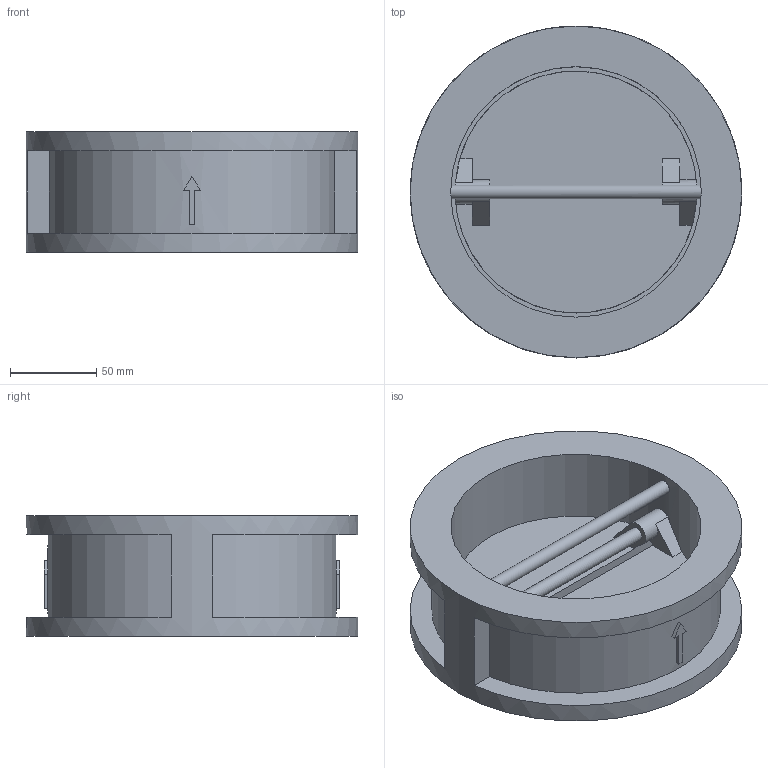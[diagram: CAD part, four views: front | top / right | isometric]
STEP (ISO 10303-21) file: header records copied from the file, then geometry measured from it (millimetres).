
FILE_DESCRIPTION(('STEP AP203'), '1');
FILE_NAME('孰囡囗 钺疣蝽 溻篚耱忸瘅囹 戾骠豚眦邂 010C.Y DN125', '', ('UNSPECIFIED'), ('UNSPECIFIED'), 'ASCON STEP Converter 1.6', 'ASCON Math Kernel', '');
FILE_SCHEMA(('CONFIG_CONTROL_DESIGN'));
Length unit declared in the file: millimetre
Bounding box: 192 x 192 x 70 mm (x, y, z)
Volume: 834119 mm3; surface area: 157497.1 mm2
Topology: 1 solids, 1 shells, 73 faces, 201 edges, 132 vertices
Faces by surface type: plane 55, cylinder 16, cone 2
Full cylindrical faces by diameter (mm): 8 x4, 145 x1, 192 x1
Entity records: 3655 total; most frequent: CARTESIAN_POINT 1198, ORIENTED_EDGE 388, DIRECTION 360, EDGE_CURVE 194, VERTEX_POINT 132, LINE 124, VECTOR 124, AXIS2_PLACEMENT_3D 118
